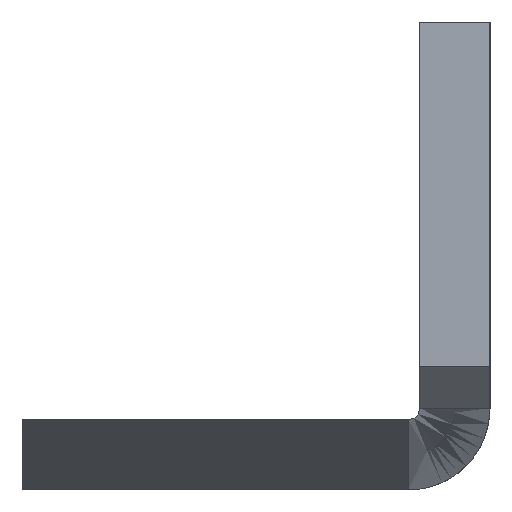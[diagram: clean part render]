
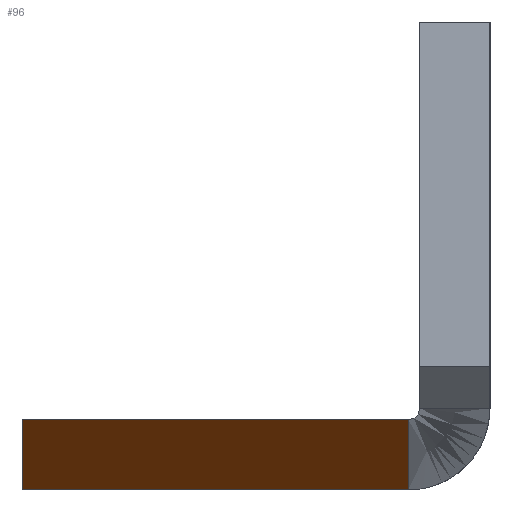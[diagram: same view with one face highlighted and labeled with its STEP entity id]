
A CAD part, left-side view. The second image highlights one B-rep face of the part: STEP entity #96.
In plain terms, the highlighted planar face has unit normal (-0.447, 0.894, 0).
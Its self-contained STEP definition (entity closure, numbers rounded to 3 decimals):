
#17 = CARTESIAN_POINT ( 'NONE',  ( -300., -3., -17. ) ) ;
#81 = DIRECTION ( 'NONE',  ( -0.894, -0.447, 0. ) ) ;
#96 = ADVANCED_FACE ( 'NONE', ( #2680 ), #2007, .T. ) ;
#160 = EDGE_CURVE ( 'NONE', #1845, #1962, #2564, .T. ) ;
#253 = CARTESIAN_POINT ( 'NONE',  ( -293., 0.5, -20. ) ) ;
#278 = ORIENTED_EDGE ( 'NONE', *, *, #570, .T. ) ;
#454 = ORIENTED_EDGE ( 'NONE', *, *, #1567, .F. ) ;
#508 = CARTESIAN_POINT ( 'NONE',  ( -293., 0.5, -17. ) ) ;
#570 = EDGE_CURVE ( 'NONE', #1043, #1962, #2522, .T. ) ;
#621 = DIRECTION ( 'NONE',  ( -0.894, -0.447, 0. ) ) ;
#729 = CARTESIAN_POINT ( 'NONE',  ( -260., 17., -17. ) ) ;
#841 = DIRECTION ( 'NONE',  ( 0., 0., 1. ) ) ;
#955 = EDGE_CURVE ( 'NONE', #1043, #1725, #2950, .T. ) ;
#957 = LINE ( 'NONE', #17, #1179 ) ;
#968 = DIRECTION ( 'NONE',  ( -0.894, -0.447, 0. ) ) ;
#1043 = VERTEX_POINT ( 'NONE', #1117 ) ;
#1117 = CARTESIAN_POINT ( 'NONE',  ( -260., 17., -20. ) ) ;
#1179 = VECTOR ( 'NONE', #968, 1000. ) ;
#1190 = CARTESIAN_POINT ( 'NONE',  ( -293., 0.5, -17. ) ) ;
#1406 = CARTESIAN_POINT ( 'NONE',  ( -293., 0.5, -20. ) ) ;
#1499 = CARTESIAN_POINT ( 'NONE',  ( -300., -3., -20. ) ) ;
#1567 = EDGE_CURVE ( 'NONE', #1725, #1845, #957, .T. ) ;
#1725 = VERTEX_POINT ( 'NONE', #729 ) ;
#1733 = ORIENTED_EDGE ( 'NONE', *, *, #955, .F. ) ;
#1768 = AXIS2_PLACEMENT_3D ( 'NONE', #1499, #2207, #81 ) ;
#1776 = CARTESIAN_POINT ( 'NONE',  ( -300., -3., -20. ) ) ;
#1845 = VERTEX_POINT ( 'NONE', #508 ) ;
#1962 = VERTEX_POINT ( 'NONE', #1406 ) ;
#2007 = PLANE ( 'NONE',  #1768 ) ;
#2020 = VECTOR ( 'NONE', #841, 1000. ) ;
#2207 = DIRECTION ( 'NONE',  ( -0.447, 0.894, 0. ) ) ;
#2522 = LINE ( 'NONE', #1776, #2552 ) ;
#2552 = VECTOR ( 'NONE', #621, 1000. ) ;
#2564 = B_SPLINE_CURVE_WITH_KNOTS ( 'NONE', 1,
 ( #1190, #253 ),
 .UNSPECIFIED., .F., .F.,
 ( 2, 2 ),
 ( 0., 1. ),
 .UNSPECIFIED. ) ;
#2680 = FACE_OUTER_BOUND ( 'NONE', #2874, .T. ) ;
#2874 = EDGE_LOOP ( 'NONE', ( #2979, #454, #1733, #278 ) ) ;
#2950 = LINE ( 'NONE', #2976, #2020 ) ;
#2976 = CARTESIAN_POINT ( 'NONE',  ( -260., 17., -20. ) ) ;
#2979 = ORIENTED_EDGE ( 'NONE', *, *, #160, .F. ) ;
